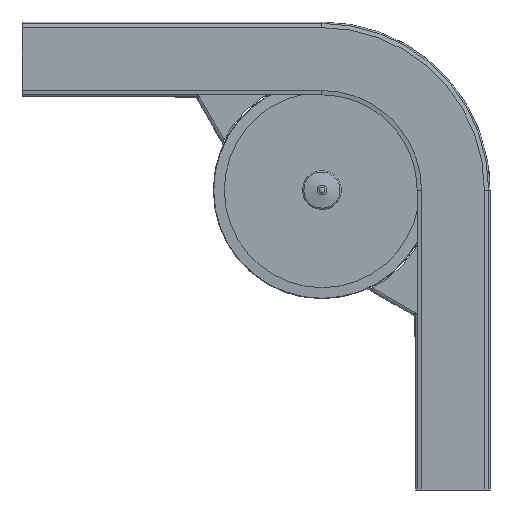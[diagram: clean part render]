
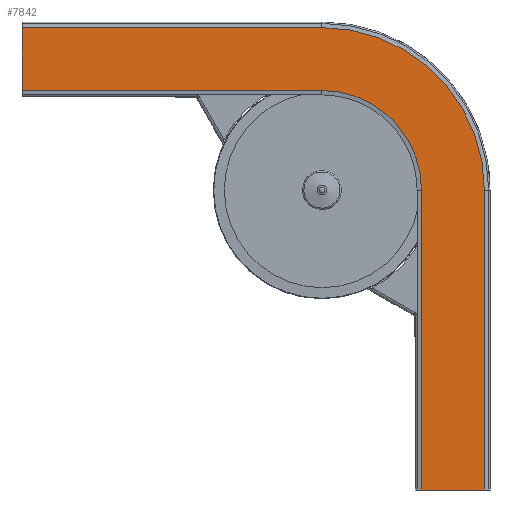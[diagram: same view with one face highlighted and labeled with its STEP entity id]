
A CAD part, front view. The second image highlights one B-rep face of the part: STEP entity #7842.
In plain terms, the highlighted planar face has unit normal (0, -1, 0).
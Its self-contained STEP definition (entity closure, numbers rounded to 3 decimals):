
#739=FACE_OUTER_BOUND('',#1182,.T.);
#1182=EDGE_LOOP('',(#6146,#6147,#6148,#6149,#6150,#6151,#6152,#6153));
#1590=CIRCLE('',#8550,188.5);
#1593=CIRCLE('',#8556,115.5);
#2165=LINE('',#12614,#2853);
#2170=LINE('',#12623,#2858);
#2172=LINE('',#12628,#2860);
#2187=LINE('',#12668,#2875);
#2192=LINE('',#12679,#2880);
#2193=LINE('',#12681,#2881);
#2853=VECTOR('',#9893,10.);
#2858=VECTOR('',#9900,10.);
#2860=VECTOR('',#9904,10.);
#2875=VECTOR('',#9945,10.);
#2880=VECTOR('',#9958,10.);
#2881=VECTOR('',#9961,10.);
#3507=VERTEX_POINT('',#12611);
#3508=VERTEX_POINT('',#12613);
#3511=VERTEX_POINT('',#12620);
#3512=VERTEX_POINT('',#12625);
#3522=VERTEX_POINT('',#12651);
#3524=VERTEX_POINT('',#12661);
#3525=VERTEX_POINT('',#12666);
#3527=VERTEX_POINT('',#12677);
#4431=EDGE_CURVE('',#3508,#3507,#2165,.T.);
#4436=EDGE_CURVE('',#3508,#3511,#2170,.T.);
#4438=EDGE_CURVE('',#3507,#3512,#2172,.T.);
#4451=EDGE_CURVE('',#3512,#3522,#1590,.T.);
#4457=EDGE_CURVE('',#3511,#3524,#1593,.T.);
#4459=EDGE_CURVE('',#3522,#3525,#2187,.T.);
#4464=EDGE_CURVE('',#3524,#3527,#2192,.T.);
#4465=EDGE_CURVE('',#3525,#3527,#2193,.T.);
#6146=ORIENTED_EDGE('',*,*,#4465,.T.);
#6147=ORIENTED_EDGE('',*,*,#4464,.F.);
#6148=ORIENTED_EDGE('',*,*,#4457,.F.);
#6149=ORIENTED_EDGE('',*,*,#4436,.F.);
#6150=ORIENTED_EDGE('',*,*,#4431,.T.);
#6151=ORIENTED_EDGE('',*,*,#4438,.T.);
#6152=ORIENTED_EDGE('',*,*,#4451,.T.);
#6153=ORIENTED_EDGE('',*,*,#4459,.T.);
#7543=PLANE('',#8562);
#7842=ADVANCED_FACE('',(#739),#7543,.T.);
#8550=AXIS2_PLACEMENT_3D('',#12653,#9925,#9926);
#8556=AXIS2_PLACEMENT_3D('',#12664,#9940,#9941);
#8562=AXIS2_PLACEMENT_3D('',#12680,#9959,#9960);
#9893=DIRECTION('',(1.,0.,0.));
#9900=DIRECTION('',(0.,0.,1.));
#9904=DIRECTION('',(0.,0.,1.));
#9925=DIRECTION('center_axis',(0.,-1.,0.));
#9926=DIRECTION('ref_axis',(1.,0.,0.));
#9940=DIRECTION('center_axis',(0.,-1.,0.));
#9941=DIRECTION('ref_axis',(1.,0.,0.));
#9945=DIRECTION('',(-1.,0.,0.));
#9958=DIRECTION('',(-1.,0.,0.));
#9959=DIRECTION('center_axis',(0.,-1.,0.));
#9960=DIRECTION('ref_axis',(1.,0.,0.));
#9961=DIRECTION('',(0.,0.,-1.));
#12611=CARTESIAN_POINT('',(36.5,-11.,0.));
#12613=CARTESIAN_POINT('',(-36.5,-11.,0.));
#12614=CARTESIAN_POINT('',(-36.5,-11.,0.));
#12620=CARTESIAN_POINT('',(-36.5,-11.,348.));
#12623=CARTESIAN_POINT('',(-36.5,-11.,0.));
#12625=CARTESIAN_POINT('',(36.5,-11.,348.));
#12628=CARTESIAN_POINT('',(36.5,-11.,0.));
#12651=CARTESIAN_POINT('',(-152.,-11.,536.5));
#12653=CARTESIAN_POINT('Origin',(-152.,-11.,348.));
#12661=CARTESIAN_POINT('',(-152.,-11.,463.5));
#12664=CARTESIAN_POINT('Origin',(-152.,-11.,348.));
#12666=CARTESIAN_POINT('',(-500.,-11.,536.5));
#12668=CARTESIAN_POINT('',(434.761,-11.,536.5));
#12677=CARTESIAN_POINT('',(-500.,-11.,463.5));
#12679=CARTESIAN_POINT('',(434.761,-11.,463.5));
#12680=CARTESIAN_POINT('Origin',(434.761,-11.,536.5));
#12681=CARTESIAN_POINT('',(-500.,-11.,519.75));
